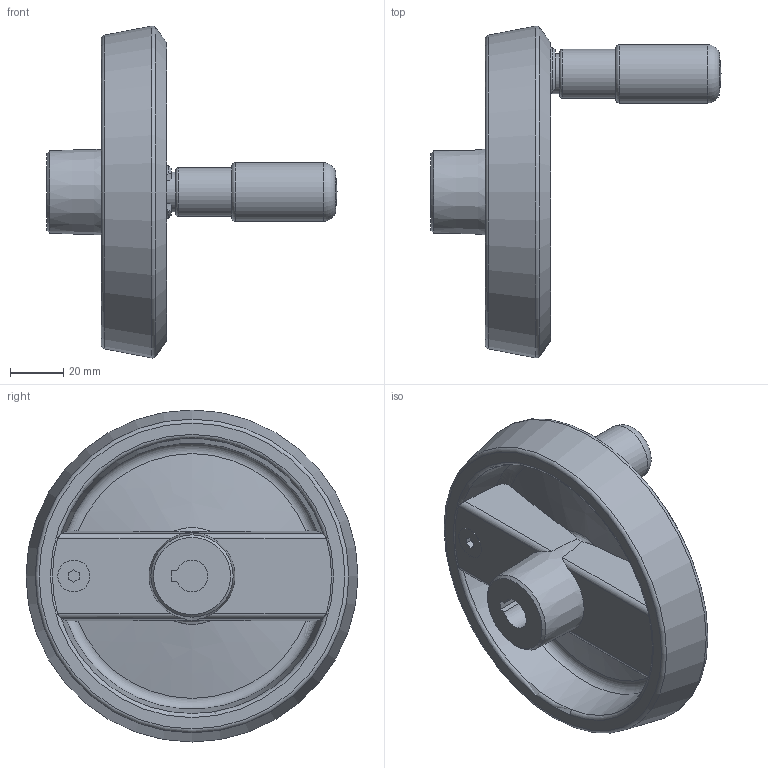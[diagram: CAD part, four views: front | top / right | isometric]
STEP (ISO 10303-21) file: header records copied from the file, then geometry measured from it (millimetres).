
FILE_DESCRIPTION( ( 'STEP AP203' ), '1' );
FILE_NAME( 'C:/Temp/Ganter_Step_05_03_2020/data/1_3/gn_923_7/gn_923_7_k/Handwheel with retractable handle GN 923.7-125-K12-R-SW (activated).stp', '2020-03-05T10:40:19', ( 'License CC BY-ND 4.0' ), ( 'CADENAS' ), ' ', 'PARTsolutions', ' ' );
FILE_SCHEMA( ( 'CONFIG_CONTROL_DESIGN' ) );
Length unit declared in the file: millimetre
Products named in the file (3): Handwheel with retractable handle GN 923.7-125-K12-R-SW (activated); _Umleggriff-Handrad GN 923.7-125-K12-R-SW-1; _Umleggriff-Handrad GN 923.7-125-K12-R-SW (90)-2
Assembly tree (2 placements, depth 2):
  Handwheel with retractable handle GN 923.7-125-K12-R-SW (activated)
    _Umleggriff-Handrad GN 923.7-125-K12-R-SW-1
    _Umleggriff-Handrad GN 923.7-125-K12-R-SW (90)-2
Bounding box: 109.2 x 125 x 125 mm (x, y, z)
Volume: 174201.8 mm3; surface area: 54290.8 mm2
Topology: 2 solids, 2 shells, 111 faces, 268 edges, 169 vertices
Faces by surface type: plane 47, cylinder 26, cone 15, torus 15, bspline 6, sphere 2
Full cylindrical faces by diameter (mm): 4 x2, 6 x1, 8 x1, 12 x1, 15 x1, 18.5 x1, 20 x1, 22 x1, 23 x2
Entity records: 3526 total; most frequent: CARTESIAN_POINT 994, DIRECTION 512, ORIENTED_EDGE 466, EDGE_CURVE 233, AXIS2_PLACEMENT_3D 215, VERTEX_POINT 163, EDGE_LOOP 149, FACE_OUTER_BOUND 129
